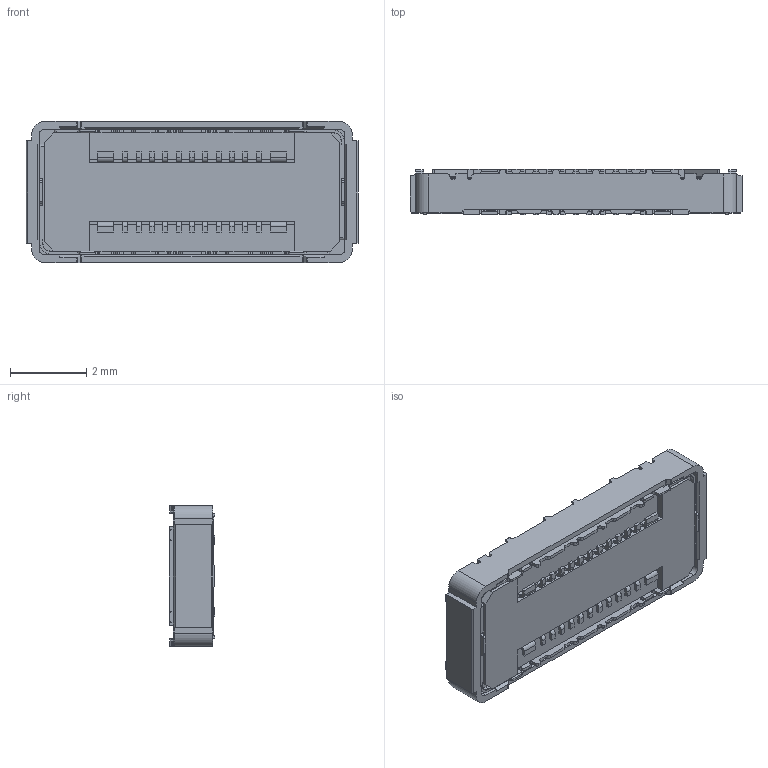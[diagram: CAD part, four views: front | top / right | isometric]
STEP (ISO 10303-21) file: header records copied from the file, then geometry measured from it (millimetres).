
FILE_DESCRIPTION (( 'STEP AP203' ), '1' );
FILE_NAME ('21150-022E-01C+21151-022E-01C MATING STEP R0R0 LENOVO .STEP', '2026-03-04T06:04:30', ( '' ), ( '' ), 'SwSTEP 2.0', 'SolidWorks 2023', '' );
FILE_SCHEMA (( 'CONFIG_CONTROL_DESIGN' ));
Length unit declared in the file: millimetre
Products named in the file (1): 21150-022E-01C+21151-022E-01C MATING STEP R0R0 LENOVO 
Bounding box: 8.71 x 1.2 x 3.7 mm (x, y, z)
Volume: 30.2 mm3; surface area: 121.4 mm2
Topology: 1 solids, 1 shells, 979 faces, 2808 edges, 1834 vertices
Faces by surface type: plane 725, cylinder 248, cone 6
Entity records: 31781 total; most frequent: CARTESIAN_POINT 5808, ORIENTED_EDGE 5616, DIRECTION 5204, EDGE_CURVE 2808, VECTOR 2280, LINE 2280, VERTEX_POINT 1834, AXIS2_PLACEMENT_3D 1462
